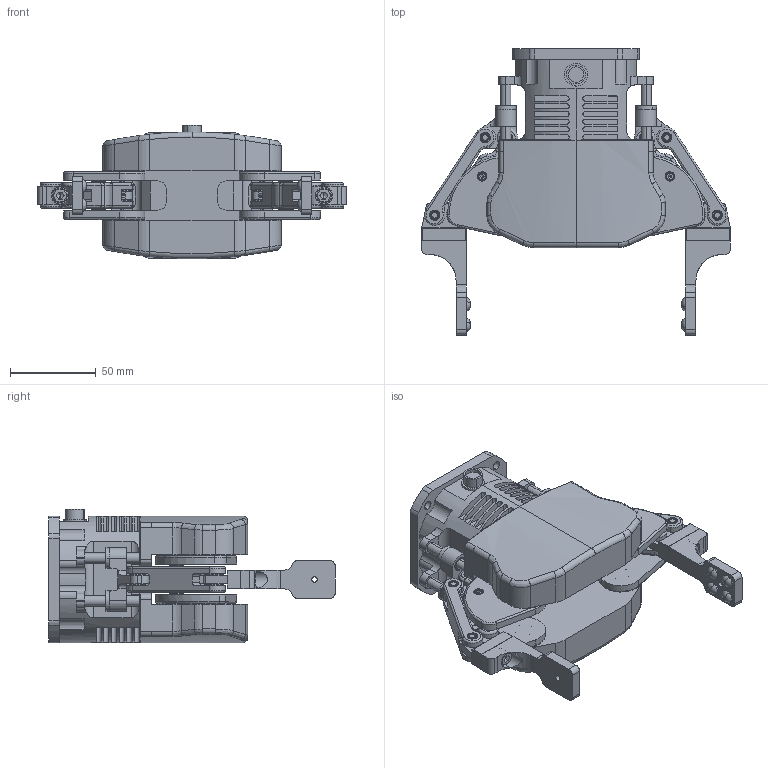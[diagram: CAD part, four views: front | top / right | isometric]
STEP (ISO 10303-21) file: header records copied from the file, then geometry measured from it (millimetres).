
FILE_DESCRIPTION (( 'STEP AP203' ), '1' );
FILE_NAME ('SusGrip_2F_Open.STEP', '2025-04-03T03:56:58', ( '' ), ( '' ), 'SwSTEP 2.0', 'SolidWorks 2021', '' );
FILE_SCHEMA (( 'CONFIG_CONTROL_DESIGN' ));
Length unit declared in the file: millimetre
Products named in the file (1): SusGrip_2F_Open
Bounding box: 180 x 167 x 78.1 mm (x, y, z)
Volume: 559526.1 mm3; surface area: 134094.4 mm2
Topology: 68 solids, 68 shells, 2248 faces, 5118 edges, 3084 vertices
Faces by surface type: cylinder 902, plane 637, cone 502, torus 183, bspline 24
Entity records: 66474 total; most frequent: CARTESIAN_POINT 14483, DIRECTION 11871, ORIENTED_EDGE 10060, EDGE_CURVE 5030, AXIS2_PLACEMENT_3D 4778, VERTEX_POINT 3084, EDGE_LOOP 2578, CIRCLE 2553
